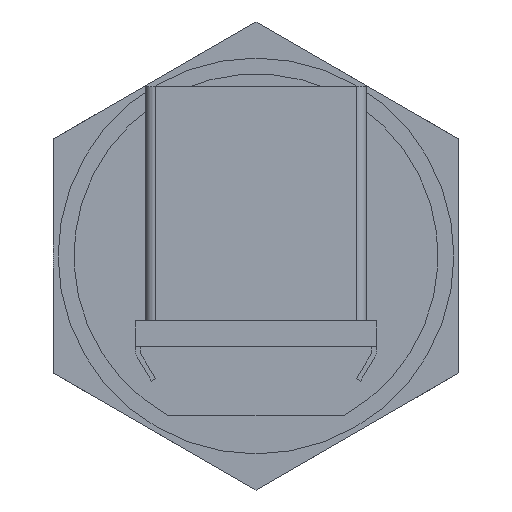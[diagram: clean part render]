
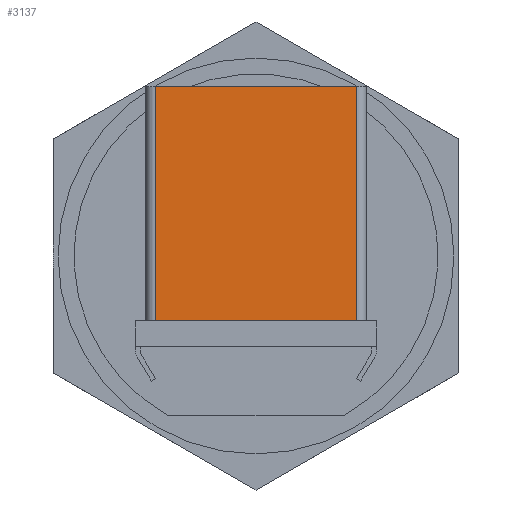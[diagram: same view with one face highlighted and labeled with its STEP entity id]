
A CAD part, left-side view. The second image highlights one B-rep face of the part: STEP entity #3137.
In plain terms, the highlighted planar face has unit normal (-1, 0, 0).
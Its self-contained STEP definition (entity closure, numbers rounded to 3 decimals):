
#419=LINE('',#8300,#659);
#452=LINE('',#8391,#692);
#457=LINE('',#8403,#697);
#458=LINE('',#8405,#698);
#659=VECTOR('',#4021,1.);
#692=VECTOR('',#4108,1.);
#697=VECTOR('',#4123,1.);
#698=VECTOR('',#4126,1.);
#931=FACE_OUTER_BOUND('',#1115,.T.);
#1115=EDGE_LOOP('',(#2861,#2862,#2863,#2864));
#1471=VERTEX_POINT('',#8297);
#1472=VERTEX_POINT('',#8299);
#1502=VERTEX_POINT('',#8388);
#1503=VERTEX_POINT('',#8390);
#1913=EDGE_CURVE('',#1471,#1472,#419,.T.);
#1957=EDGE_CURVE('',#1502,#1503,#452,.T.);
#1964=EDGE_CURVE('',#1502,#1472,#457,.T.);
#1965=EDGE_CURVE('',#1503,#1471,#458,.T.);
#2861=ORIENTED_EDGE('',*,*,#1964,.T.);
#2862=ORIENTED_EDGE('',*,*,#1913,.F.);
#2863=ORIENTED_EDGE('',*,*,#1965,.F.);
#2864=ORIENTED_EDGE('',*,*,#1957,.F.);
#2968=PLANE('',#3449);
#3137=ADVANCED_FACE('',(#931),#2968,.T.);
#3449=AXIS2_PLACEMENT_3D('',#8404,#4124,#4125);
#4021=DIRECTION('',(0.,1.,0.));
#4108=DIRECTION('',(0.,-1.,0.));
#4123=DIRECTION('',(0.,0.,-1.));
#4124=DIRECTION('center_axis',(-1.,0.,0.));
#4125=DIRECTION('ref_axis',(0.,1.,0.));
#4126=DIRECTION('',(0.,0.,-1.));
#8297=CARTESIAN_POINT('',(-30.74,-6.375,-4.1));
#8299=CARTESIAN_POINT('',(-30.74,6.375,-4.1));
#8300=CARTESIAN_POINT('',(-30.74,6.375,-4.1));
#8388=CARTESIAN_POINT('',(-30.74,6.375,10.7));
#8390=CARTESIAN_POINT('',(-30.74,-6.375,10.7));
#8391=CARTESIAN_POINT('',(-30.74,6.375,10.7));
#8403=CARTESIAN_POINT('',(-30.74,6.375,9.));
#8404=CARTESIAN_POINT('Origin',(-30.74,-6.375,0.));
#8405=CARTESIAN_POINT('',(-30.74,-6.375,9.));
